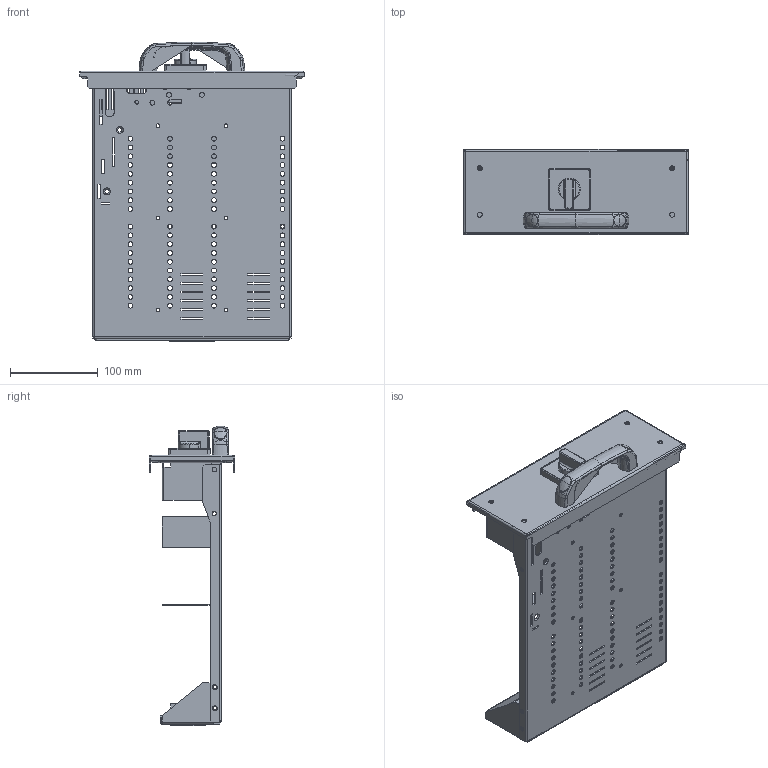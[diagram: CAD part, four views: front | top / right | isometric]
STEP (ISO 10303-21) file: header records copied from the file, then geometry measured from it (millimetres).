
FILE_DESCRIPTION(('CAx-IF Rec.Pracs.---Model Styling and Organization---1.2---2011-12-15','CAx-IF Rec.Pracs.---Geometric and Assembly Validation Properties---4.1---2014-06-16','CAx-IF Rec.Pracs.---PMI Polyline Presentation---2.0---2013-05-24'),'2;1');
FILE_NAME('2М2.stp','2021-05-05T11:45:34+03:00',(''),(''),'STEP Interface 4.4 by CT CoreTechnologie','3D_Evolution4.4 by CT CoreTechnologie','');
FILE_SCHEMA(('AUTOMOTIVE_DESIGN { 1 0 10303 214 1 1 1 1 }'));
Length unit declared in the file: millimetre
Products named in the file (20): 2Ì2; RB.1215.00.00.0 ÑÁ_-00; RB.1215.02.00.0 ÑÁ_-00; RB.1215.02.01.0_-01_1; áëîêèðîâêà; áëîêèðîâêà1; RB.1215.00.01.0_-03; RB.1215.01.00.0 ÑÁ_-03; RB.1215.01.01.0_-03; PF 7x14 RAMmcc 2.0_1x2_; AC00C061_AC00C061; Ì6õ12-A5100231_straight; 4.444.001; PR.DT477.100.02; PR.DT477.100.01; RB.1200.00.00.0_-03; AZ0101 Rotary handle DKC 6x6; R5M2W...M...BR..._R5M2W2M2BR16; RB.1353.00.00.0_-05; êîíòàêòû
Assembly tree (20 placements, depth 4):
  2Ì2
    RB.1215.00.00.0 ÑÁ_-00
      RB.1215.02.00.0 ÑÁ_-00
        RB.1215.02.01.0_-01_1
        áëîêèðîâêà
        áëîêèðîâêà1
      RB.1215.00.01.0_-03
      RB.1215.01.00.0 ÑÁ_-03
        RB.1215.01.01.0_-03
        PF 7x14 RAMmcc 2.0_1x2_
        AC00C061_AC00C061
        Ì6õ12-A5100231_straight
    4.444.001
      PR.DT477.100.02  x2
      PR.DT477.100.01
    RB.1200.00.00.0_-03
    AZ0101 Rotary handle DKC 6x6
    R5M2W...M...BR..._R5M2W2M2BR16
      RB.1353.00.00.0_-05
    êîíòàêòû
Bounding box: 255.62 x 97.2 x 341.14 mm (x, y, z)
Surface area: 416337.9 mm2 (no closed solid volume)
Topology: 0 solids, 19 shells, 1899 faces, 4992 edges, 3106 vertices
Faces by surface type: plane 689, bspline 685, cylinder 525
Entity records: 91189 total; most frequent: CARTESIAN_POINT 31669, ORIENTED_EDGE 9456, DIRECTION 8882, EDGE_CURVE 4728, AXIS2_PLACEMENT_3D 3227, VERTEX_POINT 2969, VECTOR 2428, LINE 2428
